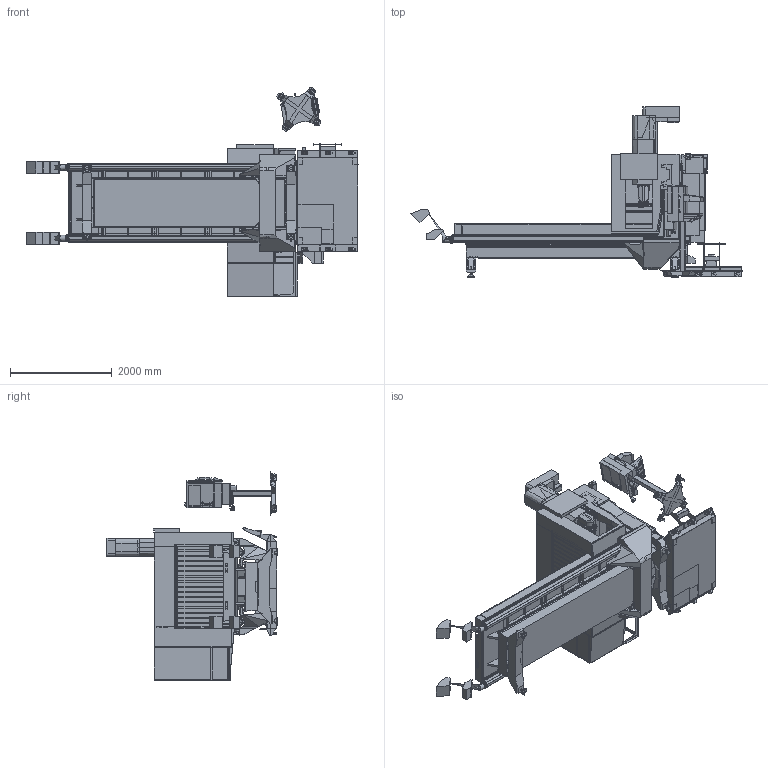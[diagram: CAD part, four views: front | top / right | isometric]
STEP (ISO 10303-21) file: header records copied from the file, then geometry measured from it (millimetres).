
FILE_DESCRIPTION (( 'STEP AP203' ), '1' );
FILE_NAME ('GM-1-5AX.STEP', '2026-06-09T18:17:06', ( '' ), ( '' ), 'SwSTEP 2.0', 'SolidWorks 2025', '' );
FILE_SCHEMA (( 'CONFIG_CONTROL_DESIGN' ));
Products named in the file (18): Curtains; 30 Pocket Toolchanger; Electrical Cabinets; Control Panel; Y-axis Saddle; Standard Chip Auger; Anchor Pattern; Chip Guards; GM-1-5AX; X-axis Bridge; Leveling pads; Saddle; Optional Tall Chip Chutes; Standard Table; Enclosure; Spindle Head; Base; Coolant Tank
Assembly tree (17 placements, depth 2):
  GM-1-5AX
    Base
    Enclosure
    Electrical Cabinets
    Control Panel
    Coolant Tank
    Leveling pads
    Saddle
    Chip Guards
    Standard Table
    X-axis Bridge
    Curtains
    30 Pocket Toolchanger
    Y-axis Saddle
    Spindle Head
    Standard Chip Auger
    Optional Tall Chip Chutes
    Anchor Pattern
Bounding box: 6522.36 x 3343.54 x 4115.83 mm (x, y, z)
Topology: 147 solids, 162 shells, 13291 faces, 32830 edges, 19949 vertices
Faces by surface type: plane 7318, cylinder 3396, bspline 1106, torus 747, cone 555, sphere 169
Entity records: 445529 total; most frequent: CARTESIAN_POINT 136700, ORIENTED_EDGE 65268, DIRECTION 62224, EDGE_CURVE 32634, AXIS2_PLACEMENT_3D 20820, LINE 20584, VECTOR 20584, VERTEX_POINT 19949
